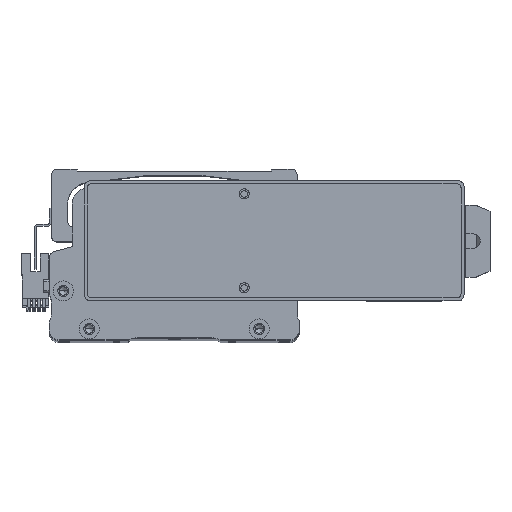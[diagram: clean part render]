
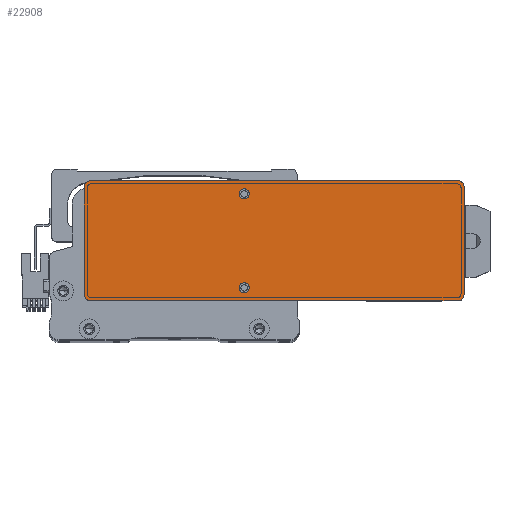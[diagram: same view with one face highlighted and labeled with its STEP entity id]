
A CAD part, top view. The second image highlights one B-rep face of the part: STEP entity #22908.
In plain terms, the highlighted planar face has unit normal (0, 0, 1) as drawn and (0, 0, -1) by its records, which use the part's own axes.
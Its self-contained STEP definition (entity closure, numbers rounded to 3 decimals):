
#849 = DIRECTION ( 'NONE',  ( 1., 0., 0. ) ) ;
#1868 = CARTESIAN_POINT ( 'NONE',  ( 95., 27., 0. ) ) ;
#1949 = CARTESIAN_POINT ( 'NONE',  ( 95., -27., 0. ) ) ;
#2635 = AXIS2_PLACEMENT_3D ( 'NONE', #9086, #51441, #15170 ) ;
#3552 = CIRCLE ( 'NONE', #28978, 3. ) ;
#3810 = CARTESIAN_POINT ( 'NONE',  ( -15., 23.5, 0. ) ) ;
#4657 = EDGE_CURVE ( 'NONE', #38256, #38632, #33971, .T. ) ;
#6032 = DIRECTION ( 'NONE',  ( 0., 0., -1. ) ) ;
#7008 = CARTESIAN_POINT ( 'NONE',  ( -15., 23.5, 0. ) ) ;
#7178 = EDGE_CURVE ( 'NONE', #68868, #39315, #20717, .T. ) ;
#9086 = CARTESIAN_POINT ( 'NONE',  ( 92., 27., 0. ) ) ;
#9889 = DIRECTION ( 'NONE',  ( -1., 0., 0. ) ) ;
#10304 = CARTESIAN_POINT ( 'NONE',  ( -12.5, 23.5, 0. ) ) ;
#11899 = VERTEX_POINT ( 'NONE', #48499 ) ;
#12191 = CARTESIAN_POINT ( 'NONE',  ( 92., -30., 0. ) ) ;
#12598 = VECTOR ( 'NONE', #26326, 1000. ) ;
#13087 = DIRECTION ( 'NONE',  ( -1., 0., 0. ) ) ;
#13239 = FACE_BOUND ( 'NONE', #30183, .T. ) ;
#13994 = AXIS2_PLACEMENT_3D ( 'NONE', #3810, #46182, #9889 ) ;
#15170 = DIRECTION ( 'NONE',  ( 1., 0., 0. ) ) ;
#15784 = EDGE_CURVE ( 'NONE', #39315, #68868, #23994, .T. ) ;
#16307 = EDGE_CURVE ( 'NONE', #11899, #74645, #34314, .T. ) ;
#16430 = CARTESIAN_POINT ( 'NONE',  ( -17.5, 23.5, 0. ) ) ;
#16918 = DIRECTION ( 'NONE',  ( 0., 0., -1. ) ) ;
#18171 = CARTESIAN_POINT ( 'NONE',  ( -92., 30., 0. ) ) ;
#18712 = EDGE_LOOP ( 'NONE', ( #47458, #40688 ) ) ;
#19421 = EDGE_CURVE ( 'NONE', #27934, #24061, #28959, .T. ) ;
#19822 = DIRECTION ( 'NONE',  ( 0., 1., 0. ) ) ;
#19921 = CIRCLE ( 'NONE', #2635, 3. ) ;
#20101 = CARTESIAN_POINT ( 'NONE',  ( -92., -27., 0. ) ) ;
#20717 = CIRCLE ( 'NONE', #74869, 2.5 ) ;
#20922 = EDGE_CURVE ( 'NONE', #11899, #75386, #62715, .T. ) ;
#20931 = EDGE_CURVE ( 'NONE', #21477, #30782, #46692, .T. ) ;
#21477 = VERTEX_POINT ( 'NONE', #16430 ) ;
#22106 = EDGE_CURVE ( 'NONE', #38808, #24061, #35182, .T. ) ;
#22171 = ORIENTED_EDGE ( 'NONE', *, *, #15784, .F. ) ;
#22908 = ADVANCED_FACE ( 'NONE', ( #43559, #45499, #13239 ), #31030, .F. ) ;
#23994 = CIRCLE ( 'NONE', #49159, 2.5 ) ;
#24050 = EDGE_CURVE ( 'NONE', #38256, #75386, #3552, .T. ) ;
#24061 = VERTEX_POINT ( 'NONE', #18171 ) ;
#25899 = CARTESIAN_POINT ( 'NONE',  ( 95., -30., 0. ) ) ;
#26181 = DIRECTION ( 'NONE',  ( 1., 0., 0. ) ) ;
#26326 = DIRECTION ( 'NONE',  ( 0., -1., 0. ) ) ;
#27884 = DIRECTION ( 'NONE',  ( 1., 0., 0. ) ) ;
#27934 = VERTEX_POINT ( 'NONE', #57212 ) ;
#28363 = DIRECTION ( 'NONE',  ( 0., 0., -1. ) ) ;
#28623 = AXIS2_PLACEMENT_3D ( 'NONE', #53172, #16918, #59239 ) ;
#28728 = LINE ( 'NONE', #68678, #12598 ) ;
#28959 = CIRCLE ( 'NONE', #28623, 3. ) ;
#28978 = AXIS2_PLACEMENT_3D ( 'NONE', #42265, #6032, #48386 ) ;
#30183 = EDGE_LOOP ( 'NONE', ( #22171, #65459 ) ) ;
#30782 = VERTEX_POINT ( 'NONE', #10304 ) ;
#31030 = PLANE ( 'NONE',  #77510 ) ;
#31712 = DIRECTION ( 'NONE',  ( -1., 0., 0. ) ) ;
#31820 = DIRECTION ( 'NONE',  ( 0., 0., -1. ) ) ;
#33971 = LINE ( 'NONE', #25899, #48218 ) ;
#34314 = CIRCLE ( 'NONE', #48702, 3. ) ;
#35085 = ORIENTED_EDGE ( 'NONE', *, *, #16307, .T. ) ;
#35182 = LINE ( 'NONE', #71346, #49422 ) ;
#35208 = ORIENTED_EDGE ( 'NONE', *, *, #20922, .F. ) ;
#36215 = AXIS2_PLACEMENT_3D ( 'NONE', #7008, #49376, #13087 ) ;
#37130 = DIRECTION ( 'NONE',  ( 0., 0., 1. ) ) ;
#37419 = EDGE_LOOP ( 'NONE', ( #50633, #71388, #35208, #35085, #48078, #77797, #62823, #37831 ) ) ;
#37831 = ORIENTED_EDGE ( 'NONE', *, *, #49613, .T. ) ;
#38256 = VERTEX_POINT ( 'NONE', #1949 ) ;
#38632 = VERTEX_POINT ( 'NONE', #1868 ) ;
#38808 = VERTEX_POINT ( 'NONE', #57958 ) ;
#39315 = VERTEX_POINT ( 'NONE', #57053 ) ;
#40688 = ORIENTED_EDGE ( 'NONE', *, *, #40988, .F. ) ;
#40988 = EDGE_CURVE ( 'NONE', #30782, #21477, #49223, .T. ) ;
#42265 = CARTESIAN_POINT ( 'NONE',  ( 92., -27., 0. ) ) ;
#43559 = FACE_BOUND ( 'NONE', #18712, .T. ) ;
#44425 = EDGE_CURVE ( 'NONE', #27934, #74645, #28728, .T. ) ;
#45499 = FACE_OUTER_BOUND ( 'NONE', #37419, .T. ) ;
#46182 = DIRECTION ( 'NONE',  ( 0., 0., -1. ) ) ;
#46692 = CIRCLE ( 'NONE', #13994, 2.5 ) ;
#47458 = ORIENTED_EDGE ( 'NONE', *, *, #20931, .F. ) ;
#48078 = ORIENTED_EDGE ( 'NONE', *, *, #44425, .F. ) ;
#48218 = VECTOR ( 'NONE', #19822, 1000. ) ;
#48386 = DIRECTION ( 'NONE',  ( 1., 0., 0. ) ) ;
#48499 = CARTESIAN_POINT ( 'NONE',  ( -92., -30., 0. ) ) ;
#48702 = AXIS2_PLACEMENT_3D ( 'NONE', #20101, #62398, #26181 ) ;
#49159 = AXIS2_PLACEMENT_3D ( 'NONE', #68105, #31820, #74173 ) ;
#49223 = CIRCLE ( 'NONE', #36215, 2.5 ) ;
#49376 = DIRECTION ( 'NONE',  ( 0., 0., -1. ) ) ;
#49422 = VECTOR ( 'NONE', #77443, 1000. ) ;
#49613 = EDGE_CURVE ( 'NONE', #38808, #38632, #19921, .T. ) ;
#50633 = ORIENTED_EDGE ( 'NONE', *, *, #4657, .F. ) ;
#51441 = DIRECTION ( 'NONE',  ( 0., 0., -1. ) ) ;
#51719 = CARTESIAN_POINT ( 'NONE',  ( 95., -30., 0. ) ) ;
#52546 = CARTESIAN_POINT ( 'NONE',  ( -95., -27., 0. ) ) ;
#53172 = CARTESIAN_POINT ( 'NONE',  ( -92., 27., 0. ) ) ;
#54570 = CARTESIAN_POINT ( 'NONE',  ( 0., 0., 0. ) ) ;
#57053 = CARTESIAN_POINT ( 'NONE',  ( -17.5, -23.5, 0. ) ) ;
#57212 = CARTESIAN_POINT ( 'NONE',  ( -95., 27., 0. ) ) ;
#57958 = CARTESIAN_POINT ( 'NONE',  ( 92., 30., 0. ) ) ;
#59239 = DIRECTION ( 'NONE',  ( 1., 0., 0. ) ) ;
#62398 = DIRECTION ( 'NONE',  ( 0., 0., -1. ) ) ;
#62715 = LINE ( 'NONE', #51719, #76937 ) ;
#62823 = ORIENTED_EDGE ( 'NONE', *, *, #22106, .F. ) ;
#65459 = ORIENTED_EDGE ( 'NONE', *, *, #7178, .F. ) ;
#68105 = CARTESIAN_POINT ( 'NONE',  ( -15., -23.5, 0. ) ) ;
#68678 = CARTESIAN_POINT ( 'NONE',  ( -95., -30., 0. ) ) ;
#68868 = VERTEX_POINT ( 'NONE', #75062 ) ;
#71346 = CARTESIAN_POINT ( 'NONE',  ( 95., 30., 0. ) ) ;
#71388 = ORIENTED_EDGE ( 'NONE', *, *, #24050, .T. ) ;
#74173 = DIRECTION ( 'NONE',  ( -1., 0., 0. ) ) ;
#74645 = VERTEX_POINT ( 'NONE', #52546 ) ;
#74869 = AXIS2_PLACEMENT_3D ( 'NONE', #75840, #28363, #31712 ) ;
#75062 = CARTESIAN_POINT ( 'NONE',  ( -12.5, -23.5, 0. ) ) ;
#75386 = VERTEX_POINT ( 'NONE', #12191 ) ;
#75840 = CARTESIAN_POINT ( 'NONE',  ( -15., -23.5, 0. ) ) ;
#76937 = VECTOR ( 'NONE', #27884, 1000. ) ;
#77443 = DIRECTION ( 'NONE',  ( -1., 0., 0. ) ) ;
#77510 = AXIS2_PLACEMENT_3D ( 'NONE', #54570, #37130, #849 ) ;
#77797 = ORIENTED_EDGE ( 'NONE', *, *, #19421, .T. ) ;
